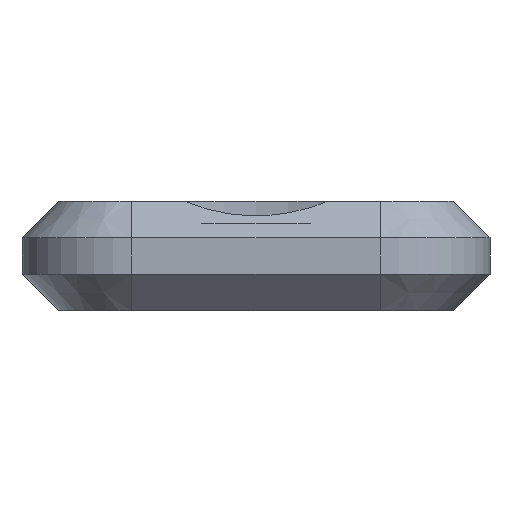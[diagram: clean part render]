
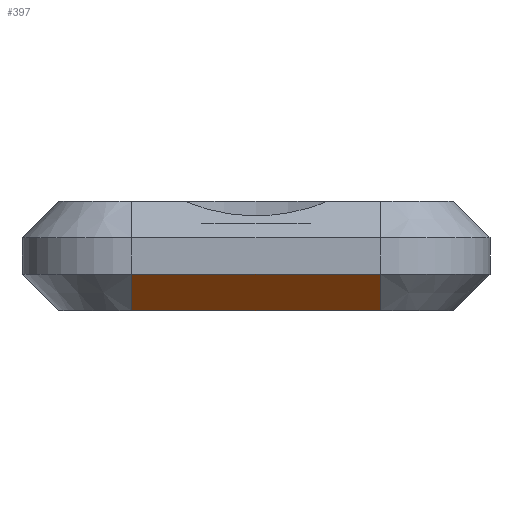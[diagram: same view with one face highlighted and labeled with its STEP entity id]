
A CAD part, front view. The second image highlights one B-rep face of the part: STEP entity #397.
In plain terms, the highlighted planar face has unit normal (0, -0.707, -0.707).
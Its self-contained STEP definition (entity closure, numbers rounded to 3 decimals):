
#40 = VECTOR ( 'NONE', #327, 1000. ) ;
#46 = CARTESIAN_POINT ( 'NONE',  ( 20.3, 45.15, 0. ) ) ;
#53 = DIRECTION ( 'NONE',  ( 0., -0.707, -0.707 ) ) ;
#93 = EDGE_CURVE ( 'NONE', #962, #908, #351, .T. ) ;
#121 = DIRECTION ( 'NONE',  ( -1., 0., 0. ) ) ;
#135 = EDGE_CURVE ( 'NONE', #571, #832, #723, .T. ) ;
#172 = CARTESIAN_POINT ( 'NONE',  ( 20.3, 44.65, 0.5 ) ) ;
#201 = AXIS2_PLACEMENT_3D ( 'NONE', #736, #53, #1005 ) ;
#257 = PLANE ( 'NONE',  #201 ) ;
#298 = ORIENTED_EDGE ( 'NONE', *, *, #135, .F. ) ;
#313 = ORIENTED_EDGE ( 'NONE', *, *, #93, .T. ) ;
#327 = DIRECTION ( 'NONE',  ( 0., -0.707, 0.707 ) ) ;
#351 = LINE ( 'NONE', #660, #40 ) ;
#397 = ADVANCED_FACE ( 'NONE', ( #517 ), #257, .T. ) ;
#517 = FACE_OUTER_BOUND ( 'NONE', #1071, .T. ) ;
#526 = VECTOR ( 'NONE', #897, 1000. ) ;
#539 = ORIENTED_EDGE ( 'NONE', *, *, #1367, .F. ) ;
#571 = VERTEX_POINT ( 'NONE', #1237 ) ;
#660 = CARTESIAN_POINT ( 'NONE',  ( 20.3, 45.15, 0. ) ) ;
#723 = LINE ( 'NONE', #1139, #1303 ) ;
#736 = CARTESIAN_POINT ( 'NONE',  ( 21.8, 44.65, 0.5 ) ) ;
#793 = DIRECTION ( 'NONE',  ( 0., -0.707, 0.707 ) ) ;
#832 = VERTEX_POINT ( 'NONE', #835 ) ;
#835 = CARTESIAN_POINT ( 'NONE',  ( 16.9, 44.65, 0.5 ) ) ;
#838 = LINE ( 'NONE', #172, #526 ) ;
#871 = CARTESIAN_POINT ( 'NONE',  ( 20.3, 44.65, 0.5 ) ) ;
#897 = DIRECTION ( 'NONE',  ( 1., 0., 0. ) ) ;
#908 = VERTEX_POINT ( 'NONE', #871 ) ;
#962 = VERTEX_POINT ( 'NONE', #46 ) ;
#1005 = DIRECTION ( 'NONE',  ( -1., 0., 0. ) ) ;
#1024 = VECTOR ( 'NONE', #121, 1000. ) ;
#1071 = EDGE_LOOP ( 'NONE', ( #313, #539, #298, #1261 ) ) ;
#1139 = CARTESIAN_POINT ( 'NONE',  ( 16.9, 45.15, 0. ) ) ;
#1212 = EDGE_CURVE ( 'NONE', #962, #571, #1331, .T. ) ;
#1237 = CARTESIAN_POINT ( 'NONE',  ( 16.9, 45.15, 0. ) ) ;
#1261 = ORIENTED_EDGE ( 'NONE', *, *, #1212, .F. ) ;
#1294 = CARTESIAN_POINT ( 'NONE',  ( 16.9, 45.15, 0. ) ) ;
#1303 = VECTOR ( 'NONE', #793, 1000. ) ;
#1331 = LINE ( 'NONE', #1294, #1024 ) ;
#1367 = EDGE_CURVE ( 'NONE', #832, #908, #838, .T. ) ;
